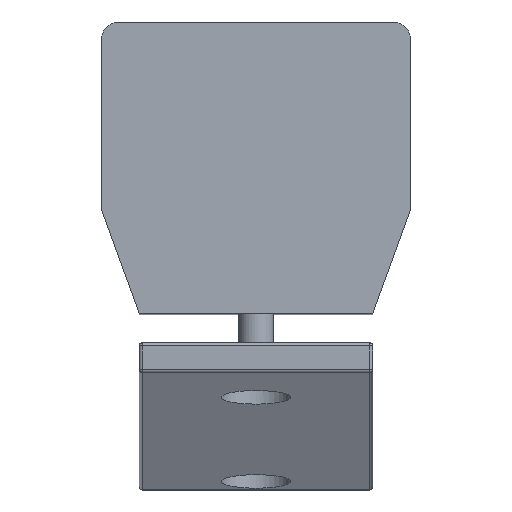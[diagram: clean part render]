
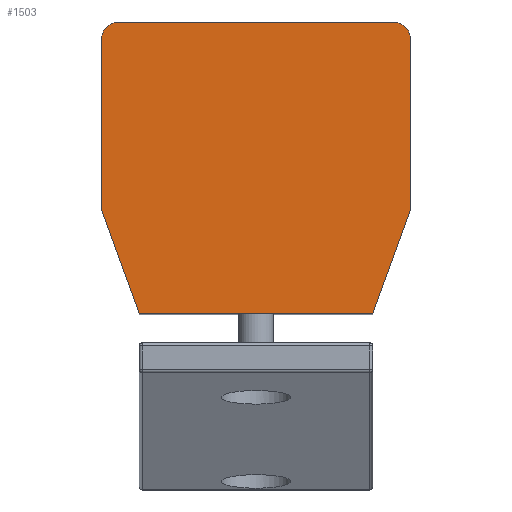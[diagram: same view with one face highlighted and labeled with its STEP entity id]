
A CAD part, top view. The second image highlights one B-rep face of the part: STEP entity #1503.
In plain terms, the highlighted planar face has unit normal (0, 0, 1).
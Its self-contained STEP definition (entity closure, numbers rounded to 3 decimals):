
#106=CIRCLE('',#1609,3.);
#108=CIRCLE('',#1613,3.);
#227=FACE_OUTER_BOUND('',#330,.T.);
#330=EDGE_LOOP('',(#1105,#1106,#1107,#1108,#1109,#1110,#1111,#1112));
#460=LINE('',#2290,#589);
#464=LINE('',#2298,#593);
#468=LINE('',#2310,#597);
#472=LINE('',#2322,#601);
#475=LINE('',#2328,#604);
#478=LINE('',#2333,#607);
#589=VECTOR('',#1812,19.005);
#593=VECTOR('',#1818,29.141);
#597=VECTOR('',#1830,47.);
#601=VECTOR('',#1842,29.141);
#604=VECTOR('',#1847,19.005);
#607=VECTOR('',#1852,40.);
#712=VERTEX_POINT('',#2288);
#713=VERTEX_POINT('',#2289);
#716=VERTEX_POINT('',#2297);
#718=VERTEX_POINT('',#2303);
#720=VERTEX_POINT('',#2309);
#722=VERTEX_POINT('',#2315);
#724=VERTEX_POINT('',#2321);
#726=VERTEX_POINT('',#2327);
#848=EDGE_CURVE('',#712,#713,#460,.T.);
#852=EDGE_CURVE('',#713,#716,#464,.T.);
#855=EDGE_CURVE('',#716,#718,#106,.T.);
#858=EDGE_CURVE('',#718,#720,#468,.T.);
#861=EDGE_CURVE('',#720,#722,#108,.T.);
#864=EDGE_CURVE('',#722,#724,#472,.T.);
#867=EDGE_CURVE('',#724,#726,#475,.T.);
#870=EDGE_CURVE('',#726,#712,#478,.T.);
#1105=ORIENTED_EDGE('',*,*,#848,.F.);
#1106=ORIENTED_EDGE('',*,*,#870,.F.);
#1107=ORIENTED_EDGE('',*,*,#867,.F.);
#1108=ORIENTED_EDGE('',*,*,#864,.F.);
#1109=ORIENTED_EDGE('',*,*,#861,.F.);
#1110=ORIENTED_EDGE('',*,*,#858,.F.);
#1111=ORIENTED_EDGE('',*,*,#855,.F.);
#1112=ORIENTED_EDGE('',*,*,#852,.F.);
#1444=PLANE('',#1619);
#1503=ADVANCED_FACE('',(#227),#1444,.T.);
#1609=AXIS2_PLACEMENT_3D('',#2304,#1823,#1824);
#1613=AXIS2_PLACEMENT_3D('',#2316,#1835,#1836);
#1619=AXIS2_PLACEMENT_3D('',#2336,#1856,#1857);
#1812=DIRECTION('',(-0.342,0.94,0.));
#1818=DIRECTION('',(0.,1.,0.));
#1823=DIRECTION('center_axis',(0.,0.,-1.));
#1824=DIRECTION('ref_axis',(0.,1.,0.));
#1830=DIRECTION('',(1.,0.,0.));
#1835=DIRECTION('center_axis',(0.,0.,-1.));
#1836=DIRECTION('ref_axis',(1.,0.,0.));
#1842=DIRECTION('',(0.,-1.,0.));
#1847=DIRECTION('',(-0.342,-0.94,0.));
#1852=DIRECTION('',(-1.,0.,0.));
#1856=DIRECTION('center_axis',(0.,0.,1.));
#1857=DIRECTION('ref_axis',(1.,0.,0.));
#2288=CARTESIAN_POINT('',(-20.,0.,2.));
#2289=CARTESIAN_POINT('',(-26.5,17.859,2.));
#2290=CARTESIAN_POINT('',(-26.5,17.859,2.));
#2297=CARTESIAN_POINT('',(-26.5,47.,2.));
#2298=CARTESIAN_POINT('',(-26.5,47.,2.));
#2303=CARTESIAN_POINT('',(-23.5,50.,2.));
#2304=CARTESIAN_POINT('Origin',(-23.5,47.,2.));
#2309=CARTESIAN_POINT('',(23.5,50.,2.));
#2310=CARTESIAN_POINT('',(23.5,50.,2.));
#2315=CARTESIAN_POINT('',(26.5,47.,2.));
#2316=CARTESIAN_POINT('Origin',(23.5,47.,2.));
#2321=CARTESIAN_POINT('',(26.5,17.859,2.));
#2322=CARTESIAN_POINT('',(26.5,17.859,2.));
#2327=CARTESIAN_POINT('',(20.,0.,2.));
#2328=CARTESIAN_POINT('',(20.,0.,2.));
#2333=CARTESIAN_POINT('',(-20.,0.,2.));
#2336=CARTESIAN_POINT('Origin',(0.,26.153,
2.));
